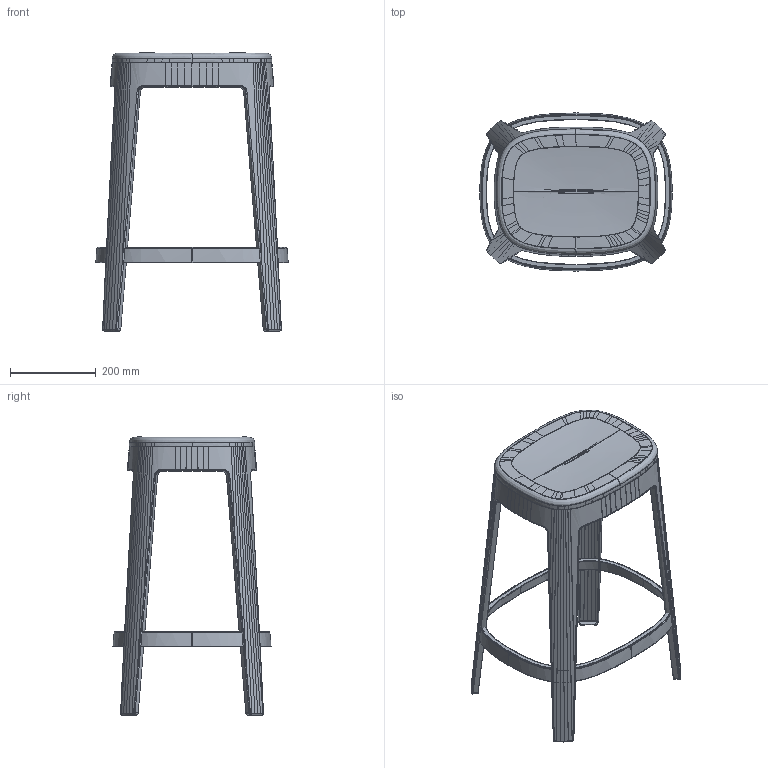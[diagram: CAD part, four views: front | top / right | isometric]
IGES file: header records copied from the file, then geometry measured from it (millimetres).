
Start section: START RECORD GO HERE.
Global section: file name: ombra_stool_65.igs; native system: DASSAULT SYSTEMES CATIA Version 5-6 Release 2017 - www.3ds.com; preprocessor: V5-6R2017_5.27.0.0.10-19-2016.20.00; author: RAFA; organization: RAFA-PC; date: 20181017.165612; units: millimetre
Bounding box: 448.66 x 368.66 x 648.19 mm (x, y, z)
Surface area: 1141427.6 mm2 (no closed solid volume)
Topology: 0 solids, 0 shells, 759 faces, 3220 edges, 3216 vertices
Faces by surface type: bspline 747, plane 12
